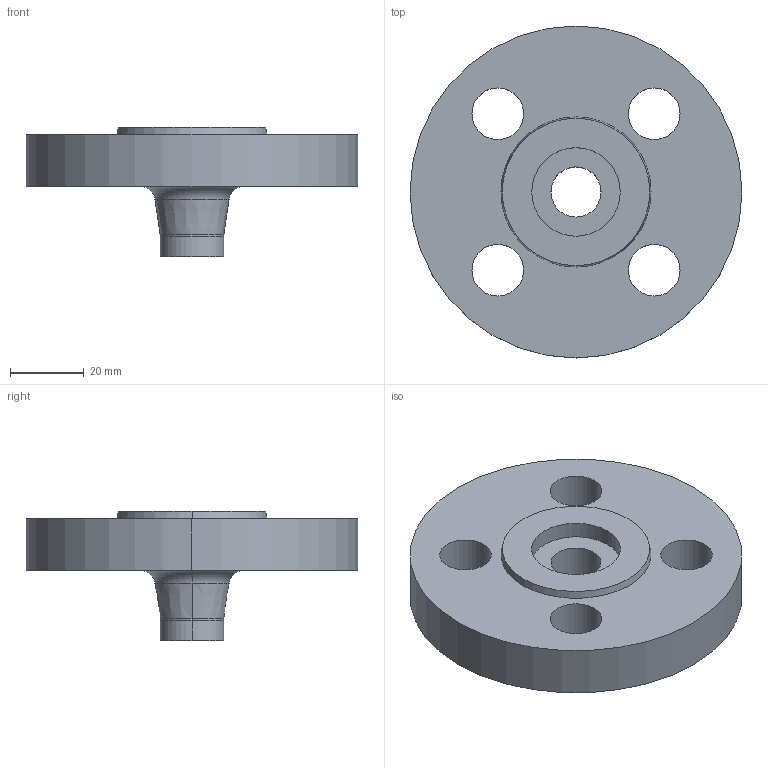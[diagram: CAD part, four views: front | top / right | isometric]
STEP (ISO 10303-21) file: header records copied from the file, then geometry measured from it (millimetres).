
FILE_DESCRIPTION (( 'STEP AP214' ), '1' );
FILE_NAME ('PN40 DN10 Type 11 - Type G Face.STEP', '2018-12-29T05:10:51', ( '' ), ( '' ), 'SwSTEP 2.0', 'SolidWorks 2019', '' );
FILE_SCHEMA (( 'AUTOMOTIVE_DESIGN' ));
Length unit declared in the file: millimetre
Products named in the file (1): PN40 DN10 Type 11 - Type G Face
Bounding box: 90 x 90 x 35 mm (x, y, z)
Volume: 81870.2 mm3; surface area: 20402.8 mm2
Topology: 1 solids, 1 shells, 29 faces, 66 edges, 42 vertices
Faces by surface type: cylinder 16, plane 5, torus 4, cone 4
Entity records: 892 total; most frequent: DIRECTION 172, CARTESIAN_POINT 138, ORIENTED_EDGE 132, AXIS2_PLACEMENT_3D 76, EDGE_CURVE 66, CIRCLE 46, EDGE_LOOP 42, VERTEX_POINT 42
